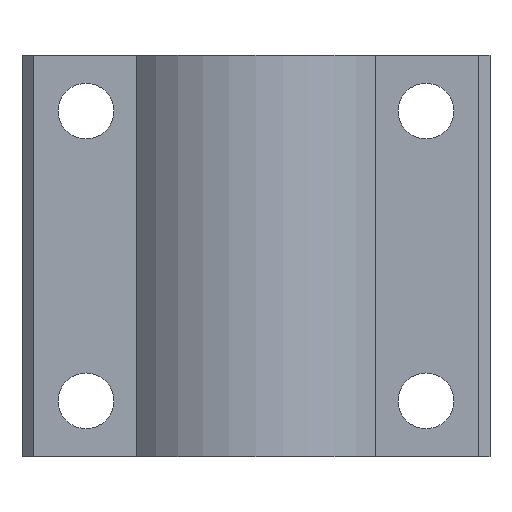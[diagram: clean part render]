
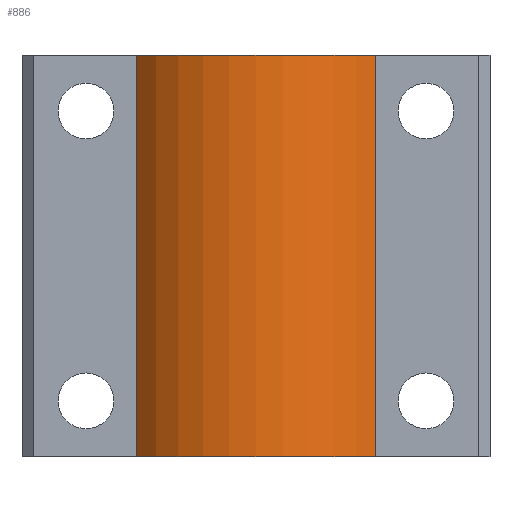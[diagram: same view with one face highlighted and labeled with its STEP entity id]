
A CAD part, front view. The second image highlights one B-rep face of the part: STEP entity #886.
In plain terms, the highlighted cylindrical face has radius 14 mm (diameter 28 mm), a partial arc.
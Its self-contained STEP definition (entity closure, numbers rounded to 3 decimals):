
#689=CARTESIAN_POINT('',(10.015,-4.802,-3.));
#690=VERTEX_POINT('',#689);
#697=CARTESIAN_POINT('',(-11.433,-4.802,-3.));
#698=VERTEX_POINT('',#697);
#699=CARTESIAN_POINT('',(-0.709,4.198,-3.));
#700=DIRECTION('',(0.0,0.0,1.0));
#701=DIRECTION('',(0.766,0.643,0.0));
#702=AXIS2_PLACEMENT_3D('',#699,#700,#701);
#703=CIRCLE('',#702,14.);
#704=EDGE_CURVE('',#698,#690,#703,.T.);
#835=CARTESIAN_POINT('',(10.015,-4.802,33.0));
#836=VERTEX_POINT('',#835);
#843=CARTESIAN_POINT('',(10.015,-4.802,33.0));
#844=DIRECTION('',(0.0,0.0,-1.0));
#845=VECTOR('',#844,36.0);
#846=LINE('',#843,#845);
#847=EDGE_CURVE('',#836,#690,#846,.T.);
#862=CARTESIAN_POINT('',(-0.709,4.198,15.0));
#863=DIRECTION('',(0.0,0.0,1.0));
#864=DIRECTION('',(0.766,0.643,0.0));
#865=AXIS2_PLACEMENT_3D('',#862,#863,#864);
#866=CYLINDRICAL_SURFACE('',#865,14.);
#867=CARTESIAN_POINT('',(-11.433,-4.802,33.0));
#868=VERTEX_POINT('',#867);
#869=CARTESIAN_POINT('',(-0.709,4.198,33.0));
#870=DIRECTION('',(0.0,0.0,-1.0));
#871=DIRECTION('',(0.766,0.643,0.0));
#872=AXIS2_PLACEMENT_3D('',#869,#870,#871);
#873=CIRCLE('',#872,14.);
#874=EDGE_CURVE('',#836,#868,#873,.T.);
#875=ORIENTED_EDGE('',*,*,#874,.T.);
#876=CARTESIAN_POINT('',(-11.433,-4.802,33.0));
#877=DIRECTION('',(0.0,0.0,-1.0));
#878=VECTOR('',#877,36.0);
#879=LINE('',#876,#878);
#880=EDGE_CURVE('',#868,#698,#879,.T.);
#881=ORIENTED_EDGE('',*,*,#880,.T.);
#882=ORIENTED_EDGE('',*,*,#704,.T.);
#883=ORIENTED_EDGE('',*,*,#847,.F.);
#884=EDGE_LOOP('',(#875,#881,#882,#883));
#885=FACE_OUTER_BOUND('',#884,.T.);
#886=ADVANCED_FACE('',(#885),#866,.T.);
